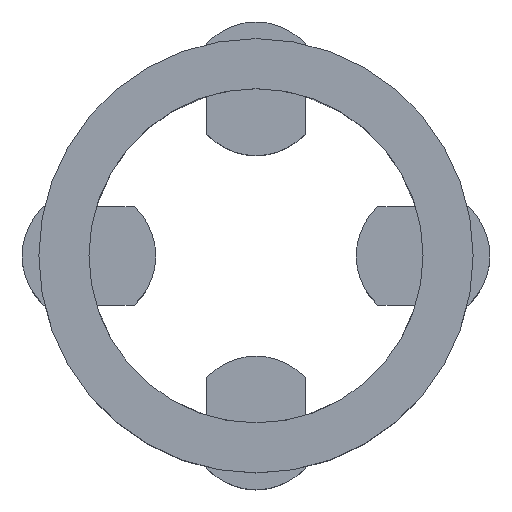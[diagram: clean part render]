
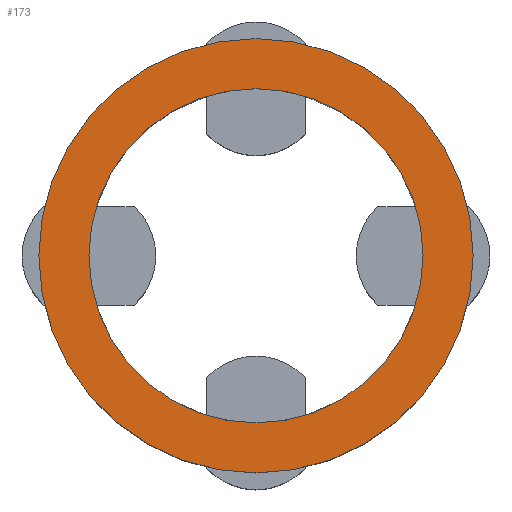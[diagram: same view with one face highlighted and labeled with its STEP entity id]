
A CAD part, top view. The second image highlights one B-rep face of the part: STEP entity #173.
In plain terms, the highlighted planar face has unit normal (0, 0, 1).
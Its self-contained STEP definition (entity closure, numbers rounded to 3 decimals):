
#135=PLANE('',#895);
#173=ADVANCED_FACE('',(#371,#372),#135,.T.);
#371=FACE_BOUND('',#395,.T.);
#372=FACE_BOUND('',#396,.T.);
#395=EDGE_LOOP('',(#483));
#396=EDGE_LOOP('',(#484));
#483=ORIENTED_EDGE('',*,*,#746,.F.);
#484=ORIENTED_EDGE('',*,*,#763,.T.);
#674=VERTEX_POINT('',#1243);
#691=VERTEX_POINT('',#1278);
#746=EDGE_CURVE('',#674,#674,#842,.T.);
#763=EDGE_CURVE('',#691,#691,#851,.T.);
#842=CIRCLE('',#884,5.);
#851=CIRCLE('',#894,6.5);
#884=AXIS2_PLACEMENT_3D('',#1242,#994,#995);
#894=AXIS2_PLACEMENT_3D('',#1277,#1022,#1023);
#895=AXIS2_PLACEMENT_3D('',#1279,#1024,#1025);
#994=DIRECTION('',(0.,0.,1.));
#995=DIRECTION('',(1.,0.,0.));
#1022=DIRECTION('',(0.,0.,1.));
#1023=DIRECTION('',(1.,0.,0.));
#1024=DIRECTION('',(0.,0.,1.));
#1025=DIRECTION('',(1.,0.,0.));
#1242=CARTESIAN_POINT('',(0.,0.,7.));
#1243=CARTESIAN_POINT('',(5.,0.,7.));
#1277=CARTESIAN_POINT('',(0.,0.,7.));
#1278=CARTESIAN_POINT('',(6.5,0.,7.));
#1279=CARTESIAN_POINT('',(0.,0.,7.));
